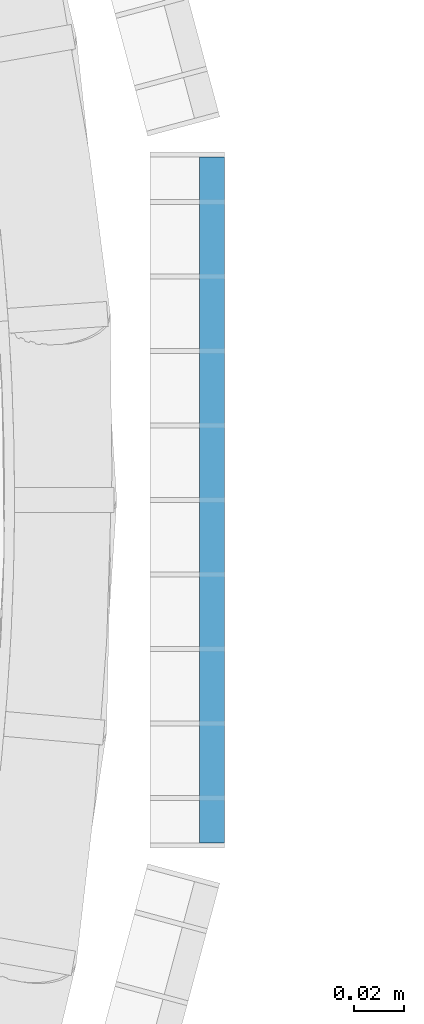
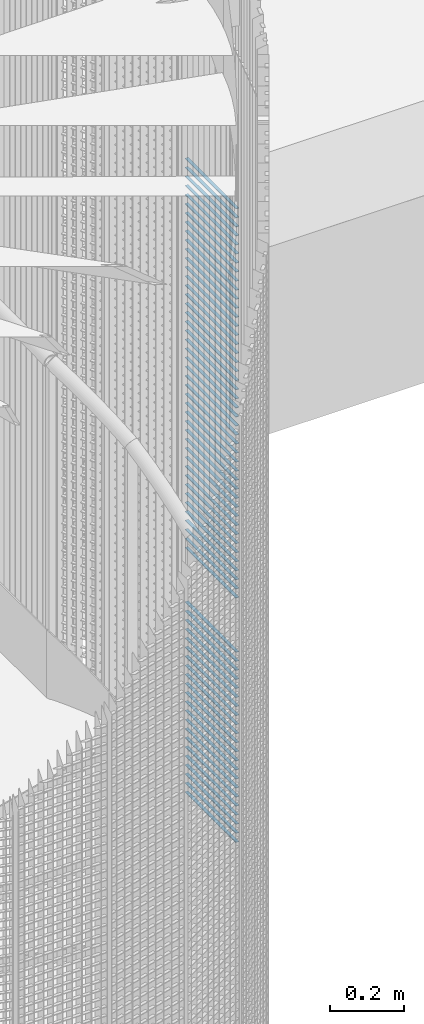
# One storey, part 296 of 1183: 66 beams, 1 element without a shape of its own.
"""IFC2X3 building model written with IfcOpenShell, lengths in millimetres."""

import ifcopenshell
import ifcopenshell.guid

model = None  # the IFC model being written
_history = None  # IfcOwnerHistory: only IFC2X3 demands one
_inside = {}  # id of a spatial element -> (the spatial element, [elements in it])
_under = {}  # id of a project, library or spatial element -> (it, [spatial elements below it])
_declared = {}  # id of a project -> (the project, [libraries it declares])
_typed = {}  # id of a type object -> (the type object, [elements of that type])
_made_of = {}  # id of a material, layer set ... -> (it, [elements and type objects made of it])


def new_model(schema):
    """Start an empty IFC model of exactly this schema.

    Asked for "IFC4X3", IfcOpenShell would pick the latest addendum, in which some entities
    have other attributes; the version numbers below select the first issue.
    IFC2X3 requires an IfcOwnerHistory on every rooted entity: one is made here for all.
    """
    global model, _history
    if schema == "IFC4X3":
        model = ifcopenshell.file(schema_version=(4, 3, 0, 0))
    else:
        model = ifcopenshell.file(schema=schema)
    _inside.clear()
    _under.clear()
    _declared.clear()
    _typed.clear()
    _made_of.clear()
    _history = None
    if model.schema == "IFC2X3":
        org = make("IfcOrganization", Name="unknown")
        user = make(
            "IfcPersonAndOrganization",
            ThePerson=make("IfcPerson", FamilyName="unknown"),
            TheOrganization=org,
        )
        app = make(
            "IfcApplication",
            ApplicationDeveloper=org,
            Version="unknown",
            ApplicationFullName="unknown",
            ApplicationIdentifier="unknown",
        )
        _history = make(
            "IfcOwnerHistory",
            OwningUser=user,
            OwningApplication=app,
            ChangeAction="ADDED",
            CreationDate=0,
        )
    return model


def make(cls, **values):
    """One entity of the class cls with the attributes given. An attribute that is None is left unset."""
    return model.create_entity(
        cls, **{name: value for name, value in values.items() if value is not None}
    )


def rooted(cls, **values):
    """An entity with a GlobalId (a new one), such as an element, a storey or a relation."""
    return make(cls, GlobalId=ifcopenshell.guid.new(), OwnerHistory=_history, **values)


def si_unit(unit_type, name, prefix=None):
    """IfcSIUnit, for example si_unit("LENGTHUNIT", "METRE", prefix="MILLI")."""
    return make("IfcSIUnit", UnitType=unit_type, Prefix=prefix, Name=name)


def assignment(units):
    """IfcUnitAssignment: the units of a project."""
    return None if units is None else make("IfcUnitAssignment", Units=units)


def point(xyz):
    """IfcCartesianPoint."""
    return None if xyz is None else make("IfcCartesianPoint", Coordinates=xyz)


def direction(xyz):
    """IfcDirection."""
    return None if xyz is None else make("IfcDirection", DirectionRatios=xyz)


def frame(location, z_axis=None, x_axis=None):
    """IfcAxis2Placement3D, a coordinate frame: its origin and axes. An axis left out is left unset."""
    return make(
        "IfcAxis2Placement3D",
        Location=point(location),
        Axis=direction(z_axis),
        RefDirection=direction(x_axis),
    )


def frame_2d(location, x_axis=None):
    """IfcAxis2Placement2D, a coordinate frame in the plane: its origin and x axis."""
    return make(
        "IfcAxis2Placement2D", Location=point(location), RefDirection=direction(x_axis)
    )


def origin_with_axes():
    """The frame at (0, 0, 0) with the z axis (0, 0, 1) and the x axis (1, 0, 0) written out."""
    return frame((0.0, 0.0, 0.0), z_axis=(0.0, 0.0, 1.0), x_axis=(1.0, 0.0, 0.0))


def origin_2d_with_axis():
    """The frame at (0, 0) in the plane with the x axis (1, 0) written out."""
    return frame_2d((0.0, 0.0), x_axis=(1.0, 0.0))


def place(relative_to, where):
    """IfcLocalPlacement: puts the frame where relative to a parent placement (None: the world)."""
    return make(
        "IfcLocalPlacement", PlacementRelTo=relative_to, RelativePlacement=where
    )


def context(
    kind, dimensions, precision=None, world=None, true_north=None, identifier=None
):
    """IfcGeometricRepresentationContext, for example the 3D "Model" context."""
    return make(
        "IfcGeometricRepresentationContext",
        ContextIdentifier=identifier,
        ContextType=kind,
        CoordinateSpaceDimension=dimensions,
        Precision=precision,
        WorldCoordinateSystem=world,
        TrueNorth=true_north,
    )


def subcontext(parent, identifier, kind, view, scale=None):
    """IfcGeometricRepresentationSubContext, for example "Body" below "Model"."""
    return make(
        "IfcGeometricRepresentationSubContext",
        ContextIdentifier=identifier,
        ContextType=kind,
        ParentContext=parent,
        TargetScale=scale,
        TargetView=view,
    )


def project(units=None, contexts=None):
    """IfcProject with its units and contexts."""
    return rooted(
        "IfcProject",
        Name="project",
        RepresentationContexts=contexts,
        UnitsInContext=assignment(units),
    )


def spatial(cls, under=None, at=None, **own):
    """A site, building, storey or space (cls), placed at a placement, below another one or the project."""
    s = rooted(cls, ObjectPlacement=at, **own)
    if under is not None:
        _under.setdefault(under.id(), (under, []))[1].append(s)
    return s


def profile(cls, at=None, kind="AREA", **sizes):
    """A parametric profile (cls). Its sizes go by their IFC names, for example OverallWidth=200.0."""
    return make(cls, ProfileType=kind, Position=at, **sizes)


def rectangle(**sizes):
    """IfcRectangleProfileDef."""
    return profile("IfcRectangleProfileDef", **sizes)


def extrude(swept, where, along, depth):
    """IfcExtrudedAreaSolid: the profile swept, set in the frame where, extruded along a direction by depth."""
    return make(
        "IfcExtrudedAreaSolid",
        SweptArea=swept,
        Position=where,
        ExtrudedDirection=direction(along),
        Depth=depth,
    )


def shape(context_of_items, identifier, shape_type, items):
    """IfcShapeRepresentation: the items that make up one representation, for example the "Body"."""
    return make(
        "IfcShapeRepresentation",
        ContextOfItems=context_of_items,
        RepresentationIdentifier=identifier,
        RepresentationType=shape_type,
        Items=items,
    )


def material(Name=None, Category=None):
    """IfcMaterial."""
    return make("IfcMaterial", Name=Name, Category=Category)


def made_of(thing, what):
    """Note that an element or type object is made of a material, layer set ...; save() writes the relation."""
    if what is not None:
        _made_of.setdefault(what.id(), (what, []))[1].append(thing)
    return thing


def type_object(cls, material=None, **own):
    """A type object (cls), such as IfcWallType, which elements share."""
    return made_of(rooted(cls, **own), material)


def element(
    cls,
    number,
    at=None,
    inside=None,
    cuts=None,
    type_object=None,
    material=None,
    context=None,
    identifier="Body",
    shape_type=None,
    held_by="IfcProductDefinitionShape",
    body=None,
    shapes=None,
    **own,
):
    """One element of the class cls, such as IfcWall. Its Tag is "e" and its number.

    at: its placement. inside: the storey or other place that contains it. cuts: it is an
    opening in that element (IfcRelVoidsElement). A single representation is given by context,
    identifier, shape_type and body (its items); several are given by shapes. held_by: the class
    of the entity that holds the representations. save() writes the other relations.
    """
    e = rooted(cls, Tag="e%d" % number, ObjectPlacement=at, **own)
    if body is not None:
        shapes = [shape(context, identifier, shape_type, body)]
    if shapes is not None:
        e.Representation = make(held_by, Representations=shapes)
    if inside is not None:
        _inside.setdefault(inside.id(), (inside, []))[1].append(e)
    if cuts is not None:
        rooted(
            "IfcRelVoidsElement", RelatingBuildingElement=cuts, RelatedOpeningElement=e
        )
    if type_object is not None:
        _typed.setdefault(type_object.id(), (type_object, []))[1].append(e)
    return made_of(e, material)


def aggregate(whole, parts):
    """IfcRelAggregates: a whole, such as a stair, and the parts it consists of."""
    return rooted("IfcRelAggregates", RelatingObject=whole, RelatedObjects=parts)


def save(model, path):
    """Write the relations noted so far, then the file.

    IfcRelAggregates (storeys below a building ...), IfcRelContainedInSpatialStructure (elements
    in a storey), IfcRelDefinesByType, IfcRelAssociatesMaterial and IfcRelDeclares: one each for
    every whole, place, type object, material and project.
    """
    for whole, parts in _under.values():
        aggregate(whole, parts)
    for where, things in _inside.values():
        rooted(
            "IfcRelContainedInSpatialStructure",
            RelatedElements=things,
            RelatingStructure=where,
        )
    for kind, things in _typed.values():
        rooted("IfcRelDefinesByType", RelatedObjects=things, RelatingType=kind)
    for what, things in _made_of.values():
        rooted("IfcRelAssociatesMaterial", RelatedObjects=things, RelatingMaterial=what)
    for by, libraries in _declared.values():
        rooted("IfcRelDeclares", RelatingContext=by, RelatedDefinitions=libraries)
    model.write(path)


model = new_model("IFC2X3")

# Units and contexts
model_context = context("Model", 3, precision=1e-05, world=origin_with_axes())
body_context = subcontext(model_context, "Body", "Model", "MODEL_VIEW")
ifc_project = project(units=[si_unit("LENGTHUNIT", "METRE", prefix="MILLI"), si_unit("AREAUNIT", "SQUARE_METRE"), si_unit("VOLUMEUNIT", "CUBIC_METRE"), si_unit("MASSUNIT", "GRAM", prefix="KILO"), si_unit("TIMEUNIT", "SECOND"), si_unit("PLANEANGLEUNIT", "RADIAN"), si_unit("SOLIDANGLEUNIT", "STERADIAN"), si_unit("THERMODYNAMICTEMPERATUREUNIT", "DEGREE_CELSIUS"), si_unit("LUMINOUSINTENSITYUNIT", "LUMEN")], contexts=[model_context])

# Site, building, storey
site_placement = place(None, origin_with_axes())
site = spatial("IfcSite", under=ifc_project, at=site_placement, Name="Undefined", CompositionType="ELEMENT")
building_placement = place(site_placement, origin_with_axes())
building = spatial("IfcBuilding", under=site, at=building_placement, Name="Undefined", CompositionType="ELEMENT")
storey_placement = place(building_placement, origin_with_axes())
storey = spatial("IfcBuildingStorey", under=building, at=storey_placement, Name="Undefined", CompositionType="ELEMENT", Elevation=0.0)

# Assembly, beams
assembly_placement = place(storey_placement, origin_with_axes())
assembly = element("IfcElementAssembly", 1, at=assembly_placement, inside=storey, Name="BORDURE", AssemblyPlace="NOTDEFINED", PredefinedType="NOTDEFINED")
ifc_material = material(Name="STEEL/S235JR")
beam_type = type_object("IfcBeamType", Name="PL2*10", PredefinedType="NOTDEFINED")
beam_1_placement = place(assembly_placement, frame((1113.47999999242, -137.99600337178, 8430.0), z_axis=(1.0, 0.0, 0.0), x_axis=(0.0, 1.0, 0.0)))
beam_1 = element("IfcBeam", 2, at=beam_1_placement, type_object=beam_type, material=ifc_material, Name="ENTRETOISE", context=body_context, shape_type="SweptSolid", body=[
    extrude(rectangle(XDim=2.0, YDim=10.0, at=origin_2d_with_axis()), frame((275.999999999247, 9.09494701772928e-13, 1.53210777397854e-14), z_axis=(-1.0, 0.0, 0.0), x_axis=(0.0, -1.0, 0.0)), (0.0, 0.0, 1.0), 276.0),
])
beam_2_placement = place(assembly_placement, frame((1113.47999999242, -137.996003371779, 8400.0), z_axis=(1.0, 0.0, 0.0), x_axis=(0.0, 1.0, 0.0)))
beam_2 = element("IfcBeam", 3, at=beam_2_placement, type_object=beam_type, material=ifc_material, Name="ENTRETOISE", context=body_context, shape_type="SweptSolid", body=[
    extrude(rectangle(XDim=2.0, YDim=10.0, at=origin_2d_with_axis()), frame((275.999999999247, 9.09494701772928e-13, 1.53210777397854e-14), z_axis=(-1.0, 0.0, 0.0), x_axis=(0.0, -1.0, 0.0)), (0.0, 0.0, 1.0), 276.0),
])
beam_3_placement = place(assembly_placement, frame((1113.47999999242, -137.996003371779, 8370.0), z_axis=(1.0, 0.0, 0.0), x_axis=(0.0, 1.0, 0.0)))
beam_3 = element("IfcBeam", 4, at=beam_3_placement, type_object=beam_type, material=ifc_material, Name="ENTRETOISE", context=body_context, shape_type="SweptSolid", body=[
    extrude(rectangle(XDim=2.0, YDim=10.0, at=origin_2d_with_axis()), frame((275.999999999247, 9.09494701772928e-13, 1.53210777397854e-14), z_axis=(-1.0, 0.0, 0.0), x_axis=(0.0, -1.0, 0.0)), (0.0, 0.0, 1.0), 276.0),
])
beam_4_placement = place(assembly_placement, frame((1113.47999999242, -137.996003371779, 8340.0), z_axis=(1.0, 0.0, 0.0), x_axis=(0.0, 1.0, 0.0)))
beam_4 = element("IfcBeam", 5, at=beam_4_placement, type_object=beam_type, material=ifc_material, Name="ENTRETOISE", context=body_context, shape_type="SweptSolid", body=[
    extrude(rectangle(XDim=2.0, YDim=10.0, at=origin_2d_with_axis()), frame((275.999999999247, 9.09494701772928e-13, 1.53210777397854e-14), z_axis=(-1.0, 0.0, 0.0), x_axis=(0.0, -1.0, 0.0)), (0.0, 0.0, 1.0), 276.0),
])
beam_5_placement = place(assembly_placement, frame((1113.47999999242, -137.996003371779, 8310.0), z_axis=(1.0, 0.0, 0.0), x_axis=(0.0, 1.0, 0.0)))
beam_5 = element("IfcBeam", 6, at=beam_5_placement, type_object=beam_type, material=ifc_material, Name="ENTRETOISE", context=body_context, shape_type="SweptSolid", body=[
    extrude(rectangle(XDim=2.0, YDim=10.0, at=origin_2d_with_axis()), frame((275.999999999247, 9.09494701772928e-13, 1.53210777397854e-14), z_axis=(-1.0, 0.0, 0.0), x_axis=(0.0, -1.0, 0.0)), (0.0, 0.0, 1.0), 276.0),
])
beam_6_placement = place(assembly_placement, frame((1113.47999999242, -137.996003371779, 8280.0), z_axis=(1.0, 0.0, 0.0), x_axis=(0.0, 1.0, 0.0)))
beam_6 = element("IfcBeam", 7, at=beam_6_placement, type_object=beam_type, material=ifc_material, Name="ENTRETOISE", context=body_context, shape_type="SweptSolid", body=[
    extrude(rectangle(XDim=2.0, YDim=10.0, at=origin_2d_with_axis()), frame((275.999999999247, 9.09494701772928e-13, 1.53210777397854e-14), z_axis=(-1.0, 0.0, 0.0), x_axis=(0.0, -1.0, 0.0)), (0.0, 0.0, 1.0), 276.0),
])
beam_7_placement = place(assembly_placement, frame((1113.47999999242, -137.996003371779, 8250.0), z_axis=(1.0, 0.0, 0.0), x_axis=(0.0, 1.0, 0.0)))
beam_7 = element("IfcBeam", 8, at=beam_7_placement, type_object=beam_type, material=ifc_material, Name="ENTRETOISE", context=body_context, shape_type="SweptSolid", body=[
    extrude(rectangle(XDim=2.0, YDim=10.0, at=origin_2d_with_axis()), frame((275.999999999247, 9.09494701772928e-13, 1.53210777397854e-14), z_axis=(-1.0, 0.0, 0.0), x_axis=(0.0, -1.0, 0.0)), (0.0, 0.0, 1.0), 276.0),
])
beam_8_placement = place(assembly_placement, frame((1113.47999999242, -137.996003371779, 8220.0), z_axis=(1.0, 0.0, 0.0), x_axis=(0.0, 1.0, 0.0)))
beam_8 = element("IfcBeam", 9, at=beam_8_placement, type_object=beam_type, material=ifc_material, Name="ENTRETOISE", context=body_context, shape_type="SweptSolid", body=[
    extrude(rectangle(XDim=2.0, YDim=10.0, at=origin_2d_with_axis()), frame((275.999999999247, 9.09494701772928e-13, 1.53210777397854e-14), z_axis=(-1.0, 0.0, 0.0), x_axis=(0.0, -1.0, 0.0)), (0.0, 0.0, 1.0), 276.0),
])
beam_9_placement = place(assembly_placement, frame((1113.47999999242, -137.996003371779, 8190.0), z_axis=(1.0, 0.0, 0.0), x_axis=(0.0, 1.0, 0.0)))
beam_9 = element("IfcBeam", 10, at=beam_9_placement, type_object=beam_type, material=ifc_material, Name="ENTRETOISE", context=body_context, shape_type="SweptSolid", body=[
    extrude(rectangle(XDim=2.0, YDim=10.0, at=origin_2d_with_axis()), frame((275.999999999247, 9.09494701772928e-13, 1.53210777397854e-14), z_axis=(-1.0, 0.0, 0.0), x_axis=(0.0, -1.0, 0.0)), (0.0, 0.0, 1.0), 276.0),
])
beam_10_placement = place(assembly_placement, frame((1113.47999999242, -137.996003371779, 8160.0), z_axis=(1.0, 0.0, 0.0), x_axis=(0.0, 1.0, 0.0)))
beam_10 = element("IfcBeam", 11, at=beam_10_placement, type_object=beam_type, material=ifc_material, Name="ENTRETOISE", context=body_context, shape_type="SweptSolid", body=[
    extrude(rectangle(XDim=2.0, YDim=10.0, at=origin_2d_with_axis()), frame((275.999999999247, 9.09494701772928e-13, 1.53210777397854e-14), z_axis=(-1.0, 0.0, 0.0), x_axis=(0.0, -1.0, 0.0)), (0.0, 0.0, 1.0), 276.0),
])
beam_11_placement = place(assembly_placement, frame((1113.47999999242, -137.996003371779, 8130.0), z_axis=(1.0, 0.0, 0.0), x_axis=(0.0, 1.0, 0.0)))
beam_11 = element("IfcBeam", 12, at=beam_11_placement, type_object=beam_type, material=ifc_material, Name="ENTRETOISE", context=body_context, shape_type="SweptSolid", body=[
    extrude(rectangle(XDim=2.0, YDim=10.0, at=origin_2d_with_axis()), frame((275.999999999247, 9.09494701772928e-13, 1.53210777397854e-14), z_axis=(-1.0, 0.0, 0.0), x_axis=(0.0, -1.0, 0.0)), (0.0, 0.0, 1.0), 276.0),
])
beam_12_placement = place(assembly_placement, frame((1113.47999999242, -137.996003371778, 8100.0), z_axis=(1.0, 0.0, 0.0), x_axis=(0.0, 1.0, 0.0)))
beam_12 = element("IfcBeam", 13, at=beam_12_placement, type_object=beam_type, material=ifc_material, Name="ENTRETOISE", context=body_context, shape_type="SweptSolid", body=[
    extrude(rectangle(XDim=2.0, YDim=10.0, at=origin_2d_with_axis()), frame((275.999999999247, 9.09494701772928e-13, 1.53210777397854e-14), z_axis=(-1.0, 0.0, 0.0), x_axis=(0.0, -1.0, 0.0)), (0.0, 0.0, 1.0), 276.0),
])
beam_13_placement = place(assembly_placement, frame((1113.47999999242, -137.996003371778, 8070.0), z_axis=(1.0, 0.0, 0.0), x_axis=(0.0, 1.0, 0.0)))
beam_13 = element("IfcBeam", 14, at=beam_13_placement, type_object=beam_type, material=ifc_material, Name="ENTRETOISE", context=body_context, shape_type="SweptSolid", body=[
    extrude(rectangle(XDim=2.0, YDim=10.0, at=origin_2d_with_axis()), frame((275.999999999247, 9.09494701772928e-13, 1.53210777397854e-14), z_axis=(-1.0, 0.0, 0.0), x_axis=(0.0, -1.0, 0.0)), (0.0, 0.0, 1.0), 276.0),
])
beam_14_placement = place(assembly_placement, frame((1113.47999999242, -137.996003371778, 8040.0), z_axis=(1.0, 0.0, 0.0), x_axis=(0.0, 1.0, 0.0)))
beam_14 = element("IfcBeam", 15, at=beam_14_placement, type_object=beam_type, material=ifc_material, Name="ENTRETOISE", context=body_context, shape_type="SweptSolid", body=[
    extrude(rectangle(XDim=2.0, YDim=10.0, at=origin_2d_with_axis()), frame((275.999999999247, 9.09494701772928e-13, 1.53210777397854e-14), z_axis=(-1.0, 0.0, 0.0), x_axis=(0.0, -1.0, 0.0)), (0.0, 0.0, 1.0), 276.0),
])
beam_15_placement = place(assembly_placement, frame((1113.47999999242, -137.996003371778, 8010.0), z_axis=(1.0, 0.0, 0.0), x_axis=(0.0, 1.0, 0.0)))
beam_15 = element("IfcBeam", 16, at=beam_15_placement, type_object=beam_type, material=ifc_material, Name="ENTRETOISE", context=body_context, shape_type="SweptSolid", body=[
    extrude(rectangle(XDim=2.0, YDim=10.0, at=origin_2d_with_axis()), frame((275.999999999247, 9.09494701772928e-13, 1.53210777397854e-14), z_axis=(-1.0, 0.0, 0.0), x_axis=(0.0, -1.0, 0.0)), (0.0, 0.0, 1.0), 276.0),
])
beam_16_placement = place(assembly_placement, frame((1113.47999999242, -137.996003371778, 7980.0), z_axis=(1.0, 0.0, 0.0), x_axis=(0.0, 1.0, 0.0)))
beam_16 = element("IfcBeam", 17, at=beam_16_placement, type_object=beam_type, material=ifc_material, Name="ENTRETOISE", context=body_context, shape_type="SweptSolid", body=[
    extrude(rectangle(XDim=2.0, YDim=10.0, at=origin_2d_with_axis()), frame((275.999999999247, 9.09494701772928e-13, 1.53210777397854e-14), z_axis=(-1.0, 0.0, 0.0), x_axis=(0.0, -1.0, 0.0)), (0.0, 0.0, 1.0), 276.0),
])
beam_17_placement = place(assembly_placement, frame((1113.47999999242, -137.996003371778, 7950.0), z_axis=(1.0, 0.0, 0.0), x_axis=(0.0, 1.0, 0.0)))
beam_17 = element("IfcBeam", 18, at=beam_17_placement, type_object=beam_type, material=ifc_material, Name="ENTRETOISE", context=body_context, shape_type="SweptSolid", body=[
    extrude(rectangle(XDim=2.0, YDim=10.0, at=origin_2d_with_axis()), frame((275.999999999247, 9.09494701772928e-13, 1.53210777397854e-14), z_axis=(-1.0, 0.0, 0.0), x_axis=(0.0, -1.0, 0.0)), (0.0, 0.0, 1.0), 276.0),
])
beam_18_placement = place(assembly_placement, frame((1113.47999999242, -137.996003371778, 7920.0), z_axis=(1.0, 0.0, 0.0), x_axis=(0.0, 1.0, 0.0)))
beam_18 = element("IfcBeam", 19, at=beam_18_placement, type_object=beam_type, material=ifc_material, Name="ENTRETOISE", context=body_context, shape_type="SweptSolid", body=[
    extrude(rectangle(XDim=2.0, YDim=10.0, at=origin_2d_with_axis()), frame((275.999999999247, 9.09494701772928e-13, 1.53210777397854e-14), z_axis=(-1.0, 0.0, 0.0), x_axis=(0.0, -1.0, 0.0)), (0.0, 0.0, 1.0), 276.0),
])
beam_19_placement = place(assembly_placement, frame((1113.47999999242, -137.996003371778, 7890.0), z_axis=(1.0, 0.0, 0.0), x_axis=(0.0, 1.0, 0.0)))
beam_19 = element("IfcBeam", 20, at=beam_19_placement, type_object=beam_type, material=ifc_material, Name="ENTRETOISE", context=body_context, shape_type="SweptSolid", body=[
    extrude(rectangle(XDim=2.0, YDim=10.0, at=origin_2d_with_axis()), frame((275.999999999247, 9.09494701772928e-13, 1.53210777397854e-14), z_axis=(-1.0, 0.0, 0.0), x_axis=(0.0, -1.0, 0.0)), (0.0, 0.0, 1.0), 276.0),
])
beam_20_placement = place(assembly_placement, frame((1113.47999999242, -137.996003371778, 7860.0), z_axis=(1.0, 0.0, 0.0), x_axis=(0.0, 1.0, 0.0)))
beam_20 = element("IfcBeam", 21, at=beam_20_placement, type_object=beam_type, material=ifc_material, Name="ENTRETOISE", context=body_context, shape_type="SweptSolid", body=[
    extrude(rectangle(XDim=2.0, YDim=10.0, at=origin_2d_with_axis()), frame((275.999999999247, 9.09494701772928e-13, 1.53210777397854e-14), z_axis=(-1.0, 0.0, 0.0), x_axis=(0.0, -1.0, 0.0)), (0.0, 0.0, 1.0), 276.0),
])
beam_21_placement = place(assembly_placement, frame((1113.47999999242, -137.996003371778, 7830.0), z_axis=(1.0, 0.0, 0.0), x_axis=(0.0, 1.0, 0.0)))
beam_21 = element("IfcBeam", 22, at=beam_21_placement, type_object=beam_type, material=ifc_material, Name="ENTRETOISE", context=body_context, shape_type="SweptSolid", body=[
    extrude(rectangle(XDim=2.0, YDim=10.0, at=origin_2d_with_axis()), frame((275.999999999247, 9.09494701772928e-13, 1.53210777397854e-14), z_axis=(-1.0, 0.0, 0.0), x_axis=(0.0, -1.0, 0.0)), (0.0, 0.0, 1.0), 276.0),
])
beam_22_placement = place(assembly_placement, frame((1113.47999999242, -137.996003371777, 7800.0), z_axis=(1.0, 0.0, 0.0), x_axis=(0.0, 1.0, 0.0)))
beam_22 = element("IfcBeam", 23, at=beam_22_placement, type_object=beam_type, material=ifc_material, Name="ENTRETOISE", context=body_context, shape_type="SweptSolid", body=[
    extrude(rectangle(XDim=2.0, YDim=10.0, at=origin_2d_with_axis()), frame((275.999999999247, 9.09494701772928e-13, 1.53210777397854e-14), z_axis=(-1.0, 0.0, 0.0), x_axis=(0.0, -1.0, 0.0)), (0.0, 0.0, 1.0), 276.0),
])
beam_23_placement = place(assembly_placement, frame((1113.47999999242, -137.996003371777, 7770.0), z_axis=(1.0, 0.0, 0.0), x_axis=(0.0, 1.0, 0.0)))
beam_23 = element("IfcBeam", 24, at=beam_23_placement, type_object=beam_type, material=ifc_material, Name="ENTRETOISE", context=body_context, shape_type="SweptSolid", body=[
    extrude(rectangle(XDim=2.0, YDim=10.0, at=origin_2d_with_axis()), frame((275.999999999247, 9.09494701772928e-13, 1.53210777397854e-14), z_axis=(-1.0, 0.0, 0.0), x_axis=(0.0, -1.0, 0.0)), (0.0, 0.0, 1.0), 276.0),
])
beam_24_placement = place(assembly_placement, frame((1113.47999999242, -137.996003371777, 7740.0), z_axis=(1.0, 0.0, 0.0), x_axis=(0.0, 1.0, 0.0)))
beam_24 = element("IfcBeam", 25, at=beam_24_placement, type_object=beam_type, material=ifc_material, Name="ENTRETOISE", context=body_context, shape_type="SweptSolid", body=[
    extrude(rectangle(XDim=2.0, YDim=10.0, at=origin_2d_with_axis()), frame((275.999999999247, 9.09494701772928e-13, 1.53210777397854e-14), z_axis=(-1.0, 0.0, 0.0), x_axis=(0.0, -1.0, 0.0)), (0.0, 0.0, 1.0), 276.0),
])
beam_25_placement = place(assembly_placement, frame((1113.47999999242, -137.996003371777, 7710.0), z_axis=(1.0, 0.0, 0.0), x_axis=(0.0, 1.0, 0.0)))
beam_25 = element("IfcBeam", 26, at=beam_25_placement, type_object=beam_type, material=ifc_material, Name="ENTRETOISE", context=body_context, shape_type="SweptSolid", body=[
    extrude(rectangle(XDim=2.0, YDim=10.0, at=origin_2d_with_axis()), frame((275.999999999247, 9.09494701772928e-13, 1.53210777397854e-14), z_axis=(-1.0, 0.0, 0.0), x_axis=(0.0, -1.0, 0.0)), (0.0, 0.0, 1.0), 276.0),
])
beam_26_placement = place(assembly_placement, frame((1113.47999999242, -137.996003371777, 7680.0), z_axis=(1.0, 0.0, 0.0), x_axis=(0.0, 1.0, 0.0)))
beam_26 = element("IfcBeam", 27, at=beam_26_placement, type_object=beam_type, material=ifc_material, Name="ENTRETOISE", context=body_context, shape_type="SweptSolid", body=[
    extrude(rectangle(XDim=2.0, YDim=10.0, at=origin_2d_with_axis()), frame((275.999999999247, 9.09494701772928e-13, 1.53210777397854e-14), z_axis=(-1.0, 0.0, 0.0), x_axis=(0.0, -1.0, 0.0)), (0.0, 0.0, 1.0), 276.0),
])
beam_27_placement = place(assembly_placement, frame((1113.47999999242, -137.996003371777, 7650.0), z_axis=(1.0, 0.0, 0.0), x_axis=(0.0, 1.0, 0.0)))
beam_27 = element("IfcBeam", 28, at=beam_27_placement, type_object=beam_type, material=ifc_material, Name="ENTRETOISE", context=body_context, shape_type="SweptSolid", body=[
    extrude(rectangle(XDim=2.0, YDim=10.0, at=origin_2d_with_axis()), frame((275.999999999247, 9.09494701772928e-13, 1.53210777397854e-14), z_axis=(-1.0, 0.0, 0.0), x_axis=(0.0, -1.0, 0.0)), (0.0, 0.0, 1.0), 276.0),
])
beam_28_placement = place(assembly_placement, frame((1113.47999999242, -137.996003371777, 7620.0), z_axis=(1.0, 0.0, 0.0), x_axis=(0.0, 1.0, 0.0)))
beam_28 = element("IfcBeam", 29, at=beam_28_placement, type_object=beam_type, material=ifc_material, Name="ENTRETOISE", context=body_context, shape_type="SweptSolid", body=[
    extrude(rectangle(XDim=2.0, YDim=10.0, at=origin_2d_with_axis()), frame((275.999999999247, 9.09494701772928e-13, 1.53210777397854e-14), z_axis=(-1.0, 0.0, 0.0), x_axis=(0.0, -1.0, 0.0)), (0.0, 0.0, 1.0), 276.0),
])
beam_29_placement = place(assembly_placement, frame((1113.47999999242, -137.996003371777, 7590.0), z_axis=(1.0, 0.0, 0.0), x_axis=(0.0, 1.0, 0.0)))
beam_29 = element("IfcBeam", 30, at=beam_29_placement, type_object=beam_type, material=ifc_material, Name="ENTRETOISE", context=body_context, shape_type="SweptSolid", body=[
    extrude(rectangle(XDim=2.0, YDim=10.0, at=origin_2d_with_axis()), frame((275.999999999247, 9.09494701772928e-13, 1.53210777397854e-14), z_axis=(-1.0, 0.0, 0.0), x_axis=(0.0, -1.0, 0.0)), (0.0, 0.0, 1.0), 276.0),
])
beam_30_placement = place(assembly_placement, frame((1113.47999999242, -137.996003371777, 7560.0), z_axis=(1.0, 0.0, 0.0), x_axis=(0.0, 1.0, 0.0)))
beam_30 = element("IfcBeam", 31, at=beam_30_placement, type_object=beam_type, material=ifc_material, Name="ENTRETOISE", context=body_context, shape_type="SweptSolid", body=[
    extrude(rectangle(XDim=2.0, YDim=10.0, at=origin_2d_with_axis()), frame((275.999999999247, 9.09494701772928e-13, 1.53210777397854e-14), z_axis=(-1.0, 0.0, 0.0), x_axis=(0.0, -1.0, 0.0)), (0.0, 0.0, 1.0), 276.0),
])
beam_31_placement = place(assembly_placement, frame((1113.47999999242, -137.996003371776, 7530.0), z_axis=(1.0, 0.0, 0.0), x_axis=(0.0, 1.0, 0.0)))
beam_31 = element("IfcBeam", 32, at=beam_31_placement, type_object=beam_type, material=ifc_material, Name="ENTRETOISE", context=body_context, shape_type="SweptSolid", body=[
    extrude(rectangle(XDim=2.0, YDim=10.0, at=origin_2d_with_axis()), frame((275.999999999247, 9.09494701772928e-13, 1.53210777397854e-14), z_axis=(-1.0, 0.0, 0.0), x_axis=(0.0, -1.0, 0.0)), (0.0, 0.0, 1.0), 276.0),
])
beam_32_placement = place(assembly_placement, frame((1113.47999999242, -137.996003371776, 7500.0), z_axis=(1.0, 0.0, 0.0), x_axis=(0.0, 1.0, 0.0)))
beam_32 = element("IfcBeam", 33, at=beam_32_placement, type_object=beam_type, material=ifc_material, Name="ENTRETOISE", context=body_context, shape_type="SweptSolid", body=[
    extrude(rectangle(XDim=2.0, YDim=10.0, at=origin_2d_with_axis()), frame((275.999999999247, 9.09494701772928e-13, 1.53210777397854e-14), z_axis=(-1.0, 0.0, 0.0), x_axis=(0.0, -1.0, 0.0)), (0.0, 0.0, 1.0), 276.0),
])
beam_33_placement = place(assembly_placement, frame((1113.47999999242, -137.996003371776, 7470.0), z_axis=(1.0, 0.0, 0.0), x_axis=(0.0, 1.0, 0.0)))
beam_33 = element("IfcBeam", 34, at=beam_33_placement, type_object=beam_type, material=ifc_material, Name="ENTRETOISE", context=body_context, shape_type="SweptSolid", body=[
    extrude(rectangle(XDim=2.0, YDim=10.0, at=origin_2d_with_axis()), frame((275.999999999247, 9.09494701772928e-13, 1.53210777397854e-14), z_axis=(-1.0, 0.0, 0.0), x_axis=(0.0, -1.0, 0.0)), (0.0, 0.0, 1.0), 276.0),
])
beam_34_placement = place(assembly_placement, frame((1113.47999999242, -137.996003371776, 7440.0), z_axis=(1.0, 0.0, 0.0), x_axis=(0.0, 1.0, 0.0)))
beam_34 = element("IfcBeam", 35, at=beam_34_placement, type_object=beam_type, material=ifc_material, Name="ENTRETOISE", context=body_context, shape_type="SweptSolid", body=[
    extrude(rectangle(XDim=2.0, YDim=10.0, at=origin_2d_with_axis()), frame((275.999999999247, 9.09494701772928e-13, 1.53210777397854e-14), z_axis=(-1.0, 0.0, 0.0), x_axis=(0.0, -1.0, 0.0)), (0.0, 0.0, 1.0), 276.0),
])
beam_35_placement = place(assembly_placement, frame((1113.47999999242, -137.996003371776, 7410.0), z_axis=(1.0, 0.0, 0.0), x_axis=(0.0, 1.0, 0.0)))
beam_35 = element("IfcBeam", 36, at=beam_35_placement, type_object=beam_type, material=ifc_material, Name="ENTRETOISE", context=body_context, shape_type="SweptSolid", body=[
    extrude(rectangle(XDim=2.0, YDim=10.0, at=origin_2d_with_axis()), frame((275.999999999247, 9.09494701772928e-13, 1.53210777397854e-14), z_axis=(-1.0, 0.0, 0.0), x_axis=(0.0, -1.0, 0.0)), (0.0, 0.0, 1.0), 276.0),
])
beam_36_placement = place(assembly_placement, frame((1113.47999999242, -137.996003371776, 7380.0), z_axis=(1.0, 0.0, 0.0), x_axis=(0.0, 1.0, 0.0)))
beam_36 = element("IfcBeam", 37, at=beam_36_placement, type_object=beam_type, material=ifc_material, Name="ENTRETOISE", context=body_context, shape_type="SweptSolid", body=[
    extrude(rectangle(XDim=2.0, YDim=10.0, at=origin_2d_with_axis()), frame((275.999999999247, 9.09494701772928e-13, 1.53210777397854e-14), z_axis=(-1.0, 0.0, 0.0), x_axis=(0.0, -1.0, 0.0)), (0.0, 0.0, 1.0), 276.0),
])
beam_37_placement = place(assembly_placement, frame((1113.47999999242, -137.996003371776, 7350.0), z_axis=(1.0, 0.0, 0.0), x_axis=(0.0, 1.0, 0.0)))
beam_37 = element("IfcBeam", 38, at=beam_37_placement, type_object=beam_type, material=ifc_material, Name="ENTRETOISE", context=body_context, shape_type="SweptSolid", body=[
    extrude(rectangle(XDim=2.0, YDim=10.0, at=origin_2d_with_axis()), frame((275.999999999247, 9.09494701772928e-13, 1.53210777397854e-14), z_axis=(-1.0, 0.0, 0.0), x_axis=(0.0, -1.0, 0.0)), (0.0, 0.0, 1.0), 276.0),
])
beam_38_placement = place(assembly_placement, frame((1113.47999999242, -137.996003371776, 7320.0), z_axis=(1.0, 0.0, 0.0), x_axis=(0.0, 1.0, 0.0)))
beam_38 = element("IfcBeam", 39, at=beam_38_placement, type_object=beam_type, material=ifc_material, Name="ENTRETOISE", context=body_context, shape_type="SweptSolid", body=[
    extrude(rectangle(XDim=2.0, YDim=10.0, at=origin_2d_with_axis()), frame((275.999999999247, 9.09494701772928e-13, 1.53210777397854e-14), z_axis=(-1.0, 0.0, 0.0), x_axis=(0.0, -1.0, 0.0)), (0.0, 0.0, 1.0), 276.0),
])
beam_39_placement = place(assembly_placement, frame((1113.47999999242, -137.996003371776, 7290.0), z_axis=(1.0, 0.0, 0.0), x_axis=(0.0, 1.0, 0.0)))
beam_39 = element("IfcBeam", 40, at=beam_39_placement, type_object=beam_type, material=ifc_material, Name="ENTRETOISE", context=body_context, shape_type="SweptSolid", body=[
    extrude(rectangle(XDim=2.0, YDim=10.0, at=origin_2d_with_axis()), frame((275.999999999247, 9.09494701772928e-13, 1.53210777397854e-14), z_axis=(-1.0, 0.0, 0.0), x_axis=(0.0, -1.0, 0.0)), (0.0, 0.0, 1.0), 276.0),
])
beam_40_placement = place(assembly_placement, frame((1113.47999999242, -137.996003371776, 7260.0), z_axis=(1.0, 0.0, 0.0), x_axis=(0.0, 1.0, 0.0)))
beam_40 = element("IfcBeam", 41, at=beam_40_placement, type_object=beam_type, material=ifc_material, Name="ENTRETOISE", context=body_context, shape_type="SweptSolid", body=[
    extrude(rectangle(XDim=2.0, YDim=10.0, at=origin_2d_with_axis()), frame((275.999999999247, 9.09494701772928e-13, 1.53210777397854e-14), z_axis=(-1.0, 0.0, 0.0), x_axis=(0.0, -1.0, 0.0)), (0.0, 0.0, 1.0), 276.0),
])
beam_41_placement = place(assembly_placement, frame((1113.47999999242, -137.996003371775, 7230.0), z_axis=(1.0, 0.0, 0.0), x_axis=(0.0, 1.0, 0.0)))
beam_41 = element("IfcBeam", 42, at=beam_41_placement, type_object=beam_type, material=ifc_material, Name="ENTRETOISE", context=body_context, shape_type="SweptSolid", body=[
    extrude(rectangle(XDim=2.0, YDim=10.0, at=origin_2d_with_axis()), frame((275.999999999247, 9.09494701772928e-13, 1.53210777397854e-14), z_axis=(-1.0, 0.0, 0.0), x_axis=(0.0, -1.0, 0.0)), (0.0, 0.0, 1.0), 276.0),
])
beam_42_placement = place(assembly_placement, frame((1113.47999999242, -137.996003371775, 7200.0), z_axis=(1.0, 0.0, 0.0), x_axis=(0.0, 1.0, 0.0)))
beam_42 = element("IfcBeam", 43, at=beam_42_placement, type_object=beam_type, material=ifc_material, Name="ENTRETOISE", context=body_context, shape_type="SweptSolid", body=[
    extrude(rectangle(XDim=2.0, YDim=10.0, at=origin_2d_with_axis()), frame((275.999999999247, 9.09494701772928e-13, 1.53210777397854e-14), z_axis=(-1.0, 0.0, 0.0), x_axis=(0.0, -1.0, 0.0)), (0.0, 0.0, 1.0), 276.0),
])
beam_43_placement = place(assembly_placement, frame((1113.47999999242, -137.996003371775, 7170.0), z_axis=(1.0, 0.0, 0.0), x_axis=(0.0, 1.0, 0.0)))
beam_43 = element("IfcBeam", 44, at=beam_43_placement, type_object=beam_type, material=ifc_material, Name="ENTRETOISE", context=body_context, shape_type="SweptSolid", body=[
    extrude(rectangle(XDim=2.0, YDim=10.0, at=origin_2d_with_axis()), frame((275.999999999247, 9.09494701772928e-13, 1.53210777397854e-14), z_axis=(-1.0, 0.0, 0.0), x_axis=(0.0, -1.0, 0.0)), (0.0, 0.0, 1.0), 276.0),
])
beam_44_placement = place(assembly_placement, frame((1113.47999999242, -137.996003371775, 7140.0), z_axis=(1.0, 0.0, 0.0), x_axis=(0.0, 1.0, 0.0)))
beam_44 = element("IfcBeam", 45, at=beam_44_placement, type_object=beam_type, material=ifc_material, Name="ENTRETOISE", context=body_context, shape_type="SweptSolid", body=[
    extrude(rectangle(XDim=2.0, YDim=10.0, at=origin_2d_with_axis()), frame((275.999999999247, 9.09494701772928e-13, 1.53210777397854e-14), z_axis=(-1.0, 0.0, 0.0), x_axis=(0.0, -1.0, 0.0)), (0.0, 0.0, 1.0), 276.0),
])
beam_45_placement = place(assembly_placement, frame((1113.47999999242, -137.996003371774, 6720.0), z_axis=(1.0, 0.0, 0.0), x_axis=(0.0, 1.0, 0.0)))
beam_45 = element("IfcBeam", 46, at=beam_45_placement, type_object=beam_type, material=ifc_material, Name="ENTRETOISE", context=body_context, shape_type="SweptSolid", body=[
    extrude(rectangle(XDim=2.0, YDim=10.0, at=origin_2d_with_axis()), frame((275.999999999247, 9.09494701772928e-13, 1.53210777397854e-14), z_axis=(-1.0, 0.0, 0.0), x_axis=(0.0, -1.0, 0.0)), (0.0, 0.0, 1.0), 276.0),
])
beam_46_placement = place(assembly_placement, frame((1113.47999999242, -137.996003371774, 6690.0), z_axis=(1.0, 0.0, 0.0), x_axis=(0.0, 1.0, 0.0)))
beam_46 = element("IfcBeam", 47, at=beam_46_placement, type_object=beam_type, material=ifc_material, Name="ENTRETOISE", context=body_context, shape_type="SweptSolid", body=[
    extrude(rectangle(XDim=2.0, YDim=10.0, at=origin_2d_with_axis()), frame((275.999999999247, 9.09494701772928e-13, 1.53210777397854e-14), z_axis=(-1.0, 0.0, 0.0), x_axis=(0.0, -1.0, 0.0)), (0.0, 0.0, 1.0), 276.0),
])
beam_47_placement = place(assembly_placement, frame((1113.47999999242, -137.996003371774, 6750.0), z_axis=(1.0, 0.0, 0.0), x_axis=(0.0, 1.0, 0.0)))
beam_47 = element("IfcBeam", 48, at=beam_47_placement, type_object=beam_type, material=ifc_material, Name="ENTRETOISE", context=body_context, shape_type="SweptSolid", body=[
    extrude(rectangle(XDim=2.0, YDim=10.0, at=origin_2d_with_axis()), frame((275.999999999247, 9.09494701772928e-13, 1.53210777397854e-14), z_axis=(-1.0, 0.0, 0.0), x_axis=(0.0, -1.0, 0.0)), (0.0, 0.0, 1.0), 276.0),
])
beam_48_placement = place(assembly_placement, frame((1113.47999999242, -137.996003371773, 6660.0), z_axis=(1.0, 0.0, 0.0), x_axis=(0.0, 1.0, 0.0)))
beam_48 = element("IfcBeam", 49, at=beam_48_placement, type_object=beam_type, material=ifc_material, Name="ENTRETOISE", context=body_context, shape_type="SweptSolid", body=[
    extrude(rectangle(XDim=2.0, YDim=10.0, at=origin_2d_with_axis()), frame((275.999999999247, 9.09494701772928e-13, 1.53210777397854e-14), z_axis=(-1.0, 0.0, 0.0), x_axis=(0.0, -1.0, 0.0)), (0.0, 0.0, 1.0), 276.0),
])
beam_49_placement = place(assembly_placement, frame((1113.47999999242, -137.996003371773, 6630.0), z_axis=(1.0, 0.0, 0.0), x_axis=(0.0, 1.0, 0.0)))
beam_49 = element("IfcBeam", 50, at=beam_49_placement, type_object=beam_type, material=ifc_material, Name="ENTRETOISE", context=body_context, shape_type="SweptSolid", body=[
    extrude(rectangle(XDim=2.0, YDim=10.0, at=origin_2d_with_axis()), frame((275.999999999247, 9.09494701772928e-13, 1.53210777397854e-14), z_axis=(-1.0, 0.0, 0.0), x_axis=(0.0, -1.0, 0.0)), (0.0, 0.0, 1.0), 276.0),
])
beam_50_placement = place(assembly_placement, frame((1113.47999999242, -137.996003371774, 6780.0), z_axis=(1.0, 0.0, 0.0), x_axis=(0.0, 1.0, 0.0)))
beam_50 = element("IfcBeam", 51, at=beam_50_placement, type_object=beam_type, material=ifc_material, Name="ENTRETOISE", context=body_context, shape_type="SweptSolid", body=[
    extrude(rectangle(XDim=2.0, YDim=10.0, at=origin_2d_with_axis()), frame((275.999999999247, 9.09494701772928e-13, 1.53210777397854e-14), z_axis=(-1.0, 0.0, 0.0), x_axis=(0.0, -1.0, 0.0)), (0.0, 0.0, 1.0), 276.0),
])
beam_51_placement = place(assembly_placement, frame((1113.47999999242, -137.996003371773, 6600.0), z_axis=(1.0, 0.0, 0.0), x_axis=(0.0, 1.0, 0.0)))
beam_51 = element("IfcBeam", 52, at=beam_51_placement, type_object=beam_type, material=ifc_material, Name="ENTRETOISE", context=body_context, shape_type="SweptSolid", body=[
    extrude(rectangle(XDim=2.0, YDim=10.0, at=origin_2d_with_axis()), frame((275.999999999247, 9.09494701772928e-13, 1.53210777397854e-14), z_axis=(-1.0, 0.0, 0.0), x_axis=(0.0, -1.0, 0.0)), (0.0, 0.0, 1.0), 276.0),
])
beam_52_placement = place(assembly_placement, frame((1113.47999999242, -137.996003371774, 6810.0), z_axis=(1.0, 0.0, 0.0), x_axis=(0.0, 1.0, 0.0)))
beam_52 = element("IfcBeam", 53, at=beam_52_placement, type_object=beam_type, material=ifc_material, Name="ENTRETOISE", context=body_context, shape_type="SweptSolid", body=[
    extrude(rectangle(XDim=2.0, YDim=10.0, at=origin_2d_with_axis()), frame((275.999999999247, 9.09494701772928e-13, 1.53210777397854e-14), z_axis=(-1.0, 0.0, 0.0), x_axis=(0.0, -1.0, 0.0)), (0.0, 0.0, 1.0), 276.0),
])
beam_53_placement = place(assembly_placement, frame((1113.47999999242, -137.996003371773, 6570.0), z_axis=(1.0, 0.0, 0.0), x_axis=(0.0, 1.0, 0.0)))
beam_53 = element("IfcBeam", 54, at=beam_53_placement, type_object=beam_type, material=ifc_material, Name="ENTRETOISE", context=body_context, shape_type="SweptSolid", body=[
    extrude(rectangle(XDim=2.0, YDim=10.0, at=origin_2d_with_axis()), frame((275.999999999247, 9.09494701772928e-13, 1.53210777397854e-14), z_axis=(-1.0, 0.0, 0.0), x_axis=(0.0, -1.0, 0.0)), (0.0, 0.0, 1.0), 276.0),
])
beam_54_placement = place(assembly_placement, frame((1113.47999999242, -137.996003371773, 6540.0), z_axis=(1.0, 0.0, 0.0), x_axis=(0.0, 1.0, 0.0)))
beam_54 = element("IfcBeam", 55, at=beam_54_placement, type_object=beam_type, material=ifc_material, Name="ENTRETOISE", context=body_context, shape_type="SweptSolid", body=[
    extrude(rectangle(XDim=2.0, YDim=10.0, at=origin_2d_with_axis()), frame((275.999999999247, 9.09494701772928e-13, 1.53210777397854e-14), z_axis=(-1.0, 0.0, 0.0), x_axis=(0.0, -1.0, 0.0)), (0.0, 0.0, 1.0), 276.0),
])
beam_55_placement = place(assembly_placement, frame((1113.47999999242, -137.996003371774, 6840.0), z_axis=(1.0, 0.0, 0.0), x_axis=(0.0, 1.0, 0.0)))
beam_55 = element("IfcBeam", 56, at=beam_55_placement, type_object=beam_type, material=ifc_material, Name="ENTRETOISE", context=body_context, shape_type="SweptSolid", body=[
    extrude(rectangle(XDim=2.0, YDim=10.0, at=origin_2d_with_axis()), frame((275.999999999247, 9.09494701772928e-13, 1.53210777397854e-14), z_axis=(-1.0, 0.0, 0.0), x_axis=(0.0, -1.0, 0.0)), (0.0, 0.0, 1.0), 276.0),
])
beam_56_placement = place(assembly_placement, frame((1113.47999999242, -137.996003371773, 6510.0), z_axis=(1.0, 0.0, 0.0), x_axis=(0.0, 1.0, 0.0)))
beam_56 = element("IfcBeam", 57, at=beam_56_placement, type_object=beam_type, material=ifc_material, Name="ENTRETOISE", context=body_context, shape_type="SweptSolid", body=[
    extrude(rectangle(XDim=2.0, YDim=10.0, at=origin_2d_with_axis()), frame((275.999999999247, 9.09494701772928e-13, 1.53210777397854e-14), z_axis=(-1.0, 0.0, 0.0), x_axis=(0.0, -1.0, 0.0)), (0.0, 0.0, 1.0), 276.0),
])
beam_57_placement = place(assembly_placement, frame((1113.47999999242, -137.996003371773, 6480.0), z_axis=(1.0, 0.0, 0.0), x_axis=(0.0, 1.0, 0.0)))
beam_57 = element("IfcBeam", 58, at=beam_57_placement, type_object=beam_type, material=ifc_material, Name="ENTRETOISE", context=body_context, shape_type="SweptSolid", body=[
    extrude(rectangle(XDim=2.0, YDim=10.0, at=origin_2d_with_axis()), frame((275.999999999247, 9.09494701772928e-13, 1.53210777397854e-14), z_axis=(-1.0, 0.0, 0.0), x_axis=(0.0, -1.0, 0.0)), (0.0, 0.0, 1.0), 276.0),
])
beam_58_placement = place(assembly_placement, frame((1113.47999999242, -137.996003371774, 6870.0), z_axis=(1.0, 0.0, 0.0), x_axis=(0.0, 1.0, 0.0)))
beam_58 = element("IfcBeam", 59, at=beam_58_placement, type_object=beam_type, material=ifc_material, Name="ENTRETOISE", context=body_context, shape_type="SweptSolid", body=[
    extrude(rectangle(XDim=2.0, YDim=10.0, at=origin_2d_with_axis()), frame((275.999999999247, 9.09494701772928e-13, 1.53210777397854e-14), z_axis=(-1.0, 0.0, 0.0), x_axis=(0.0, -1.0, 0.0)), (0.0, 0.0, 1.0), 276.0),
])
beam_59_placement = place(assembly_placement, frame((1113.47999999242, -137.996003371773, 6450.0), z_axis=(1.0, 0.0, 0.0), x_axis=(0.0, 1.0, 0.0)))
beam_59 = element("IfcBeam", 60, at=beam_59_placement, type_object=beam_type, material=ifc_material, Name="ENTRETOISE", context=body_context, shape_type="SweptSolid", body=[
    extrude(rectangle(XDim=2.0, YDim=10.0, at=origin_2d_with_axis()), frame((275.999999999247, 9.09494701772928e-13, 1.53210777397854e-14), z_axis=(-1.0, 0.0, 0.0), x_axis=(0.0, -1.0, 0.0)), (0.0, 0.0, 1.0), 276.0),
])
beam_60_placement = place(assembly_placement, frame((1113.47999999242, -137.996003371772, 6420.0), z_axis=(1.0, 0.0, 0.0), x_axis=(0.0, 1.0, 0.0)))
beam_60 = element("IfcBeam", 61, at=beam_60_placement, type_object=beam_type, material=ifc_material, Name="ENTRETOISE", context=body_context, shape_type="SweptSolid", body=[
    extrude(rectangle(XDim=2.0, YDim=10.0, at=origin_2d_with_axis()), frame((275.999999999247, 9.09494701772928e-13, 1.53210777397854e-14), z_axis=(-1.0, 0.0, 0.0), x_axis=(0.0, -1.0, 0.0)), (0.0, 0.0, 1.0), 276.0),
])
beam_61_placement = place(assembly_placement, frame((1113.47999999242, -137.996003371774, 6900.0), z_axis=(1.0, 0.0, 0.0), x_axis=(0.0, 1.0, 0.0)))
beam_61 = element("IfcBeam", 62, at=beam_61_placement, type_object=beam_type, material=ifc_material, Name="ENTRETOISE", context=body_context, shape_type="SweptSolid", body=[
    extrude(rectangle(XDim=2.0, YDim=10.0, at=origin_2d_with_axis()), frame((275.999999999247, 9.09494701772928e-13, 1.53210777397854e-14), z_axis=(-1.0, 0.0, 0.0), x_axis=(0.0, -1.0, 0.0)), (0.0, 0.0, 1.0), 276.0),
])
beam_62_placement = place(assembly_placement, frame((1113.47999999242, -137.996003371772, 6390.0), z_axis=(1.0, 0.0, 0.0), x_axis=(0.0, 1.0, 0.0)))
beam_62 = element("IfcBeam", 63, at=beam_62_placement, type_object=beam_type, material=ifc_material, Name="ENTRETOISE", context=body_context, shape_type="SweptSolid", body=[
    extrude(rectangle(XDim=2.0, YDim=10.0, at=origin_2d_with_axis()), frame((275.999999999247, 9.09494701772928e-13, 1.53210777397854e-14), z_axis=(-1.0, 0.0, 0.0), x_axis=(0.0, -1.0, 0.0)), (0.0, 0.0, 1.0), 276.0),
])
beam_63_placement = place(assembly_placement, frame((1113.47999999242, -137.996003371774, 6930.0), z_axis=(1.0, 0.0, 0.0), x_axis=(0.0, 1.0, 0.0)))
beam_63 = element("IfcBeam", 64, at=beam_63_placement, type_object=beam_type, material=ifc_material, Name="ENTRETOISE", context=body_context, shape_type="SweptSolid", body=[
    extrude(rectangle(XDim=2.0, YDim=10.0, at=origin_2d_with_axis()), frame((275.999999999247, 9.09494701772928e-13, 1.53210777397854e-14), z_axis=(-1.0, 0.0, 0.0), x_axis=(0.0, -1.0, 0.0)), (0.0, 0.0, 1.0), 276.0),
])
beam_64_placement = place(assembly_placement, frame((1113.47999999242, -137.996003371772, 6360.0), z_axis=(1.0, 0.0, 0.0), x_axis=(0.0, 1.0, 0.0)))
beam_64 = element("IfcBeam", 65, at=beam_64_placement, type_object=beam_type, material=ifc_material, Name="ENTRETOISE", context=body_context, shape_type="SweptSolid", body=[
    extrude(rectangle(XDim=2.0, YDim=10.0, at=origin_2d_with_axis()), frame((275.999999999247, 9.09494701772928e-13, 1.53210777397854e-14), z_axis=(-1.0, 0.0, 0.0), x_axis=(0.0, -1.0, 0.0)), (0.0, 0.0, 1.0), 276.0),
])
beam_65_placement = place(assembly_placement, frame((1113.47999999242, -137.996003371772, 6330.0), z_axis=(1.0, 0.0, 0.0), x_axis=(0.0, 1.0, 0.0)))
beam_65 = element("IfcBeam", 66, at=beam_65_placement, type_object=beam_type, material=ifc_material, Name="ENTRETOISE", context=body_context, shape_type="SweptSolid", body=[
    extrude(rectangle(XDim=2.0, YDim=10.0, at=origin_2d_with_axis()), frame((275.999999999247, 9.09494701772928e-13, 1.53210777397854e-14), z_axis=(-1.0, 0.0, 0.0), x_axis=(0.0, -1.0, 0.0)), (0.0, 0.0, 1.0), 276.0),
])
beam_66_placement = place(assembly_placement, frame((1113.47999999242, -137.996003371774, 6960.0), z_axis=(1.0, 0.0, 0.0), x_axis=(0.0, 1.0, 0.0)))
beam_66 = element("IfcBeam", 67, at=beam_66_placement, type_object=beam_type, material=ifc_material, Name="ENTRETOISE", context=body_context, shape_type="SweptSolid", body=[
    extrude(rectangle(XDim=2.0, YDim=10.0, at=origin_2d_with_axis()), frame((275.999999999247, 9.09494701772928e-13, 1.53210777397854e-14), z_axis=(-1.0, 0.0, 0.0), x_axis=(0.0, -1.0, 0.0)), (0.0, 0.0, 1.0), 276.0),
])
aggregate(assembly, [beam_1, beam_2, beam_3, beam_4, beam_5, beam_6, beam_7, beam_8, beam_9, beam_10, beam_11, beam_12, beam_13, beam_14, beam_15, beam_16, beam_17, beam_18, beam_19, beam_20, beam_21, beam_22, beam_23, beam_24, beam_25, beam_26, beam_27, beam_28, beam_29, beam_30, beam_31, beam_32, beam_33, beam_34, beam_35, beam_36, beam_37, beam_38, beam_39, beam_40, beam_41, beam_42, beam_43, beam_44, beam_45, beam_46, beam_47, beam_48, beam_49, beam_50, beam_51, beam_52, beam_53, beam_54, beam_55, beam_56, beam_57, beam_58, beam_59, beam_60, beam_61, beam_62, beam_63, beam_64, beam_65, beam_66])

save(model, "model.ifc")
